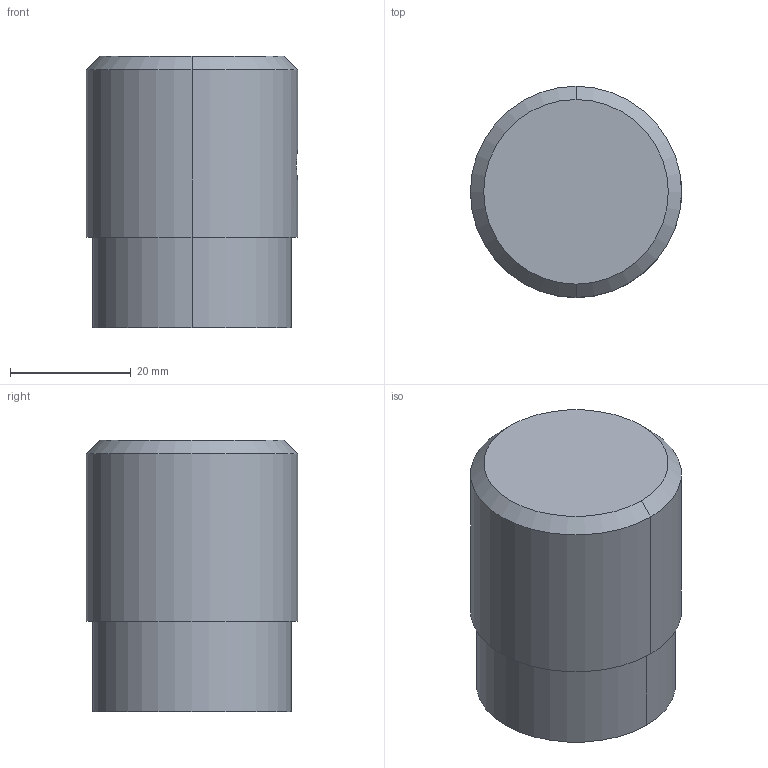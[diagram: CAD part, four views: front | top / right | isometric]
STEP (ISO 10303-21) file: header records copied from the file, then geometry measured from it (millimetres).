
FILE_DESCRIPTION (( 'STEP AP203' ), '1' );
FILE_NAME ('kgp35.STEP', '2021-10-26T01:34:31', ( '' ), ( '' ), 'SwSTEP 2.0', 'SolidWorks 2020', '' );
FILE_SCHEMA (( 'CONFIG_CONTROL_DESIGN' ));
Length unit declared in the file: millimetre
Products named in the file (1): kgp35
Bounding box: 35 x 35 x 45 mm (x, y, z)
Volume: 30226 mm3; surface area: 8800.7 mm2
Topology: 1 solids, 1 shells, 17 faces, 34 edges, 22 vertices
Faces by surface type: cylinder 10, plane 5, cone 2
Entity records: 647 total; most frequent: CARTESIAN_POINT 198, DIRECTION 84, ORIENTED_EDGE 68, AXIS2_PLACEMENT_3D 36, EDGE_CURVE 34, VERTEX_POINT 22, EDGE_LOOP 22, CIRCLE 18
